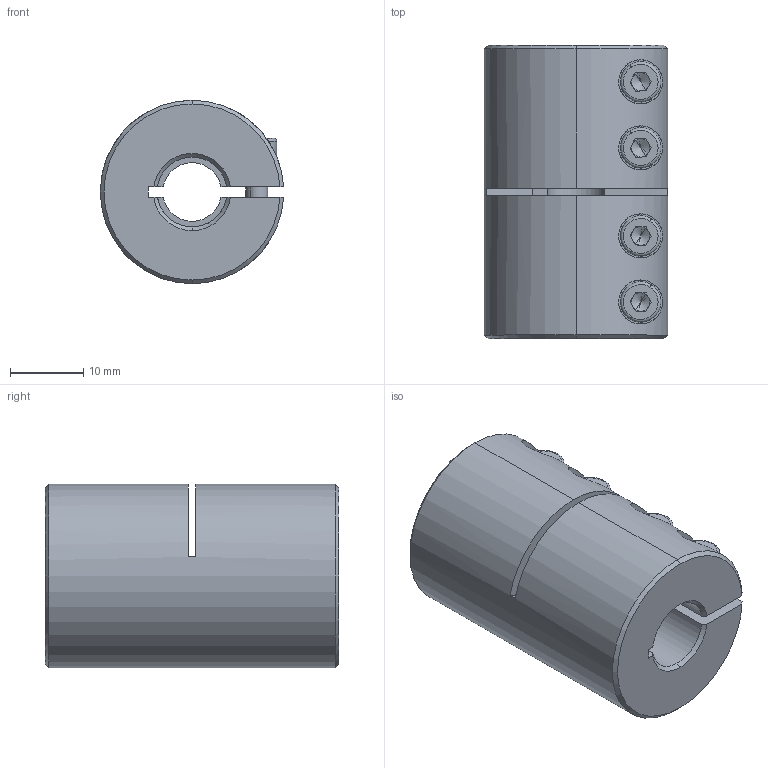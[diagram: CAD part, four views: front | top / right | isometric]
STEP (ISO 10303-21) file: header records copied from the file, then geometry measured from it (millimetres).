
FILE_DESCRIPTION (( 'STEP AP214' ), '1' );
FILE_NAME ('LL-B-D25L40-8-9.525½¨Ä£.STEP', '2022-07-21T05:16:28', ( '' ), ( '' ), 'SwSTEP 2.0', 'SolidWorks 2022', '' );
FILE_SCHEMA (( 'AUTOMOTIVE_DESIGN' ));
Length unit declared in the file: millimetre
Products named in the file (1): LL-B-D25L40-8-9.525膘耀
Bounding box: 24.98 x 40 x 25 mm (x, y, z)
Volume: 16111.6 mm3; surface area: 7131.6 mm2
Topology: 1 solids, 1 shells, 178 faces, 455 edges, 287 vertices
Faces by surface type: plane 85, cylinder 65, cone 20, torus 8
Entity records: 5838 total; most frequent: CARTESIAN_POINT 1437, DIRECTION 946, ORIENTED_EDGE 894, EDGE_CURVE 447, AXIS2_PLACEMENT_3D 364, VERTEX_POINT 287, LINE 218, VECTOR 218
